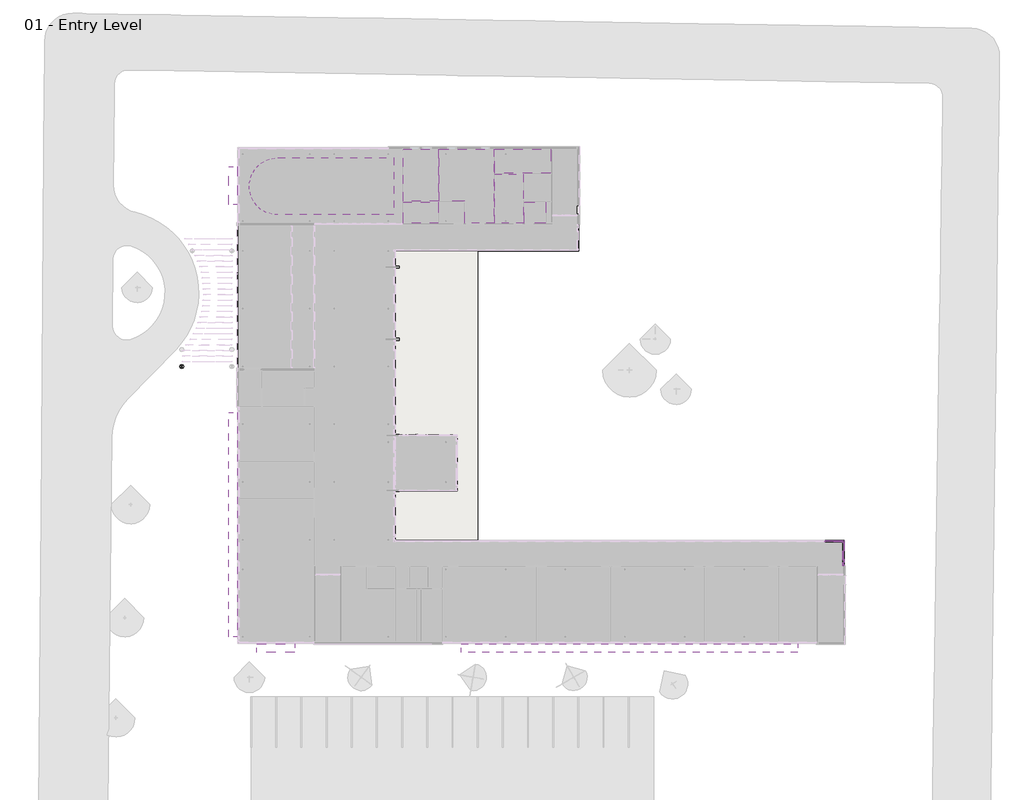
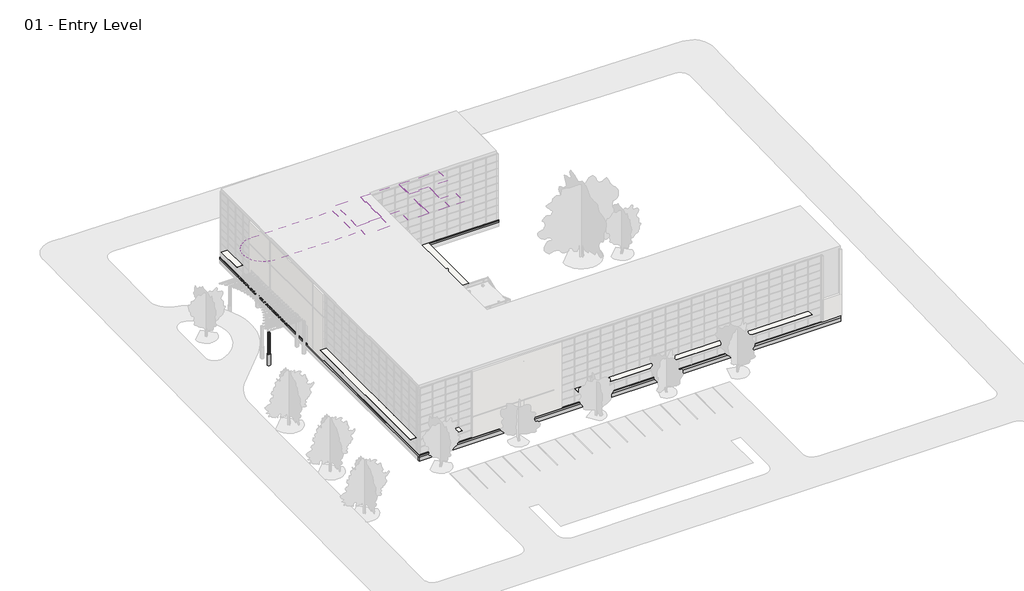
# One storey, part 32 of 35: 67 members, 23 plates, 7 coverings, 7 slabs, 2 columns, 1 beam, 1 proxy.
"""IFC4 building model written with IfcOpenShell, lengths in millimetres."""

from ifc_helpers import new_model, si_unit, point, frame, frame_2d, origin, place, context, project, spatial, polyline, circle_curve, trimmed, segment, composite_curve, outline, extrude, faceted_brep, transform, mapped, element, save
from components import column_5a4f3ead, member_6230916f, member_2b49869a, member_75074519, member_391b434c, member_81de2198, member_4eae0b13, member_9822c4e5, member_b50b2218, system_panel_glazed_d0ecad2d, system_panel_glazed_85a31dd6, system_panel_glazed_01db37db, system_panel_glazed_0a464ab8

model = new_model("IFC4")

# Units and contexts
model_context = context("Model", 3, world=origin())
ifc_project = project(units=[si_unit("LENGTHUNIT", "METRE", prefix="MILLI")], contexts=[model_context])

# Site, building, storey
site = spatial("IfcSite", under=ifc_project)
building = spatial("IfcBuilding", under=site)
storey = spatial("IfcBuildingStorey", under=building, Name="01 - Entry Level", Elevation=0.0)

# Beam
placement = place(None, origin())
element("IfcBeam", 1, ObjectType="Concrete-Rectangular Beam : 12 x 24", at=placement, inside=storey, context=model_context, shape_type="Brep", body=[
    faceted_brep([(66209.1957476, -152.475, -406.4), (66209.1957476, 152.325, -406.4), (65904.3957476, 152.325, -406.4), (378.7457476, 152.325, -406.4), (73.9457476, 152.325, -406.4), (73.9457476, -152.475, -406.4), (66209.1957476, -152.475, -1016.0), (73.9457476, -152.475, -1016.0), (66209.1957476, 152.325, -1016.0), (73.9457476, 152.325, -1016.0), (378.7457476, 152.325, -1016.0), (65904.3957476, 152.325, -1016.0)], [[[0, 1, 2, 3, 4, 5]], [[6, 0, 5, 7]], [[8, 6, 7, 9, 10, 11]], [[1, 8, 11, 10, 9, 4, 3, 2]], [[1, 0, 6, 8]], [[5, 4, 9, 7]]]),
])

# Proxy
element("IfcBuildingElementProxy", 2, Name="Thickened 24\" x 12\"", ObjectType="Thickened 24\" x 12\"", at=placement, inside=storey, context=model_context, shape_type="Brep", body=[
    faceted_brep([(73.9457476, -152.475, -101.6), (73.9457476, -152.475, -406.4), (66209.1957476, -152.475, -406.4), (66209.1957476, -152.475, -101.6), (683.5457476, 457.125, -101.6), (65599.5957476, 457.125, -101.6), (378.7457476, 152.325, -406.4), (65904.3957476, 152.325, -406.4), (66209.1957476, 11106.075, -406.4), (66209.1957476, 11106.075, -101.6), (65599.5957476, 10496.475, -101.6), (65904.3957476, 10801.275, -406.4), (17288.7957476, 11106.075, -406.4), (17288.7957476, 11106.075, -101.6), (16679.1957476, 10496.475, -101.6), (16983.9957476, 10801.275, -406.4), (17288.7957476, 16446.425, -406.4), (17288.7957476, 16446.425, -101.6), (16679.1957476, 17056.025, -101.6), (16983.9957476, 16751.225, -406.4), (24051.7865197, 16446.425, -406.4), (24051.7865197, 16446.425, -101.6), (23442.1865197, 17056.025, -101.6), (23746.9865197, 16751.225, -406.4), (24051.7865197, 22650.375, -406.4), (24051.7865197, 22650.375, -101.6), (23442.1865197, 22040.775, -101.6), (23746.9865197, 22345.575, -406.4), (17288.7957476, 22650.375, -406.4), (17288.7957476, 22650.375, -101.6), (16679.1957476, 22040.775, -101.6), (16983.9957476, 22345.575, -406.4), (17288.7957476, 42646.525, -406.4), (17288.7957476, 42646.525, -101.6), (16679.1957476, 43256.125, -101.6), (16983.9957476, 42951.325, -406.4), (37253.1957476, 42646.525, -406.4), (37253.1957476, 42646.525, -101.6), (36643.5957476, 43256.125, -101.6), (36948.3957476, 42951.325, -406.4), (37253.1957476, 53930.475, -406.4), (37253.1957476, 53930.475, -101.6), (36643.5957476, 53320.875, -101.6), (36948.3957476, 53625.675, -406.4), (73.9457476, 53930.475, -406.4), (73.9457476, 53930.475, -101.6), (683.5457476, 53320.875, -101.6), (378.7457476, 53625.675, -406.4)], [[[0, 1, 2, 3]], [[4, 0, 3, 5]], [[6, 4, 5, 7]], [[1, 6, 7, 2]], [[3, 2, 8, 9]], [[5, 3, 9, 10]], [[7, 5, 10, 11]], [[2, 7, 11, 8]], [[9, 8, 12, 13]], [[10, 9, 13, 14]], [[11, 10, 14, 15]], [[8, 11, 15, 12]], [[13, 12, 16, 17]], [[14, 13, 17, 18]], [[15, 14, 18, 19]], [[12, 15, 19, 16]], [[17, 16, 20, 21]], [[18, 17, 21, 22]], [[19, 18, 22, 23]], [[16, 19, 23, 20]], [[21, 20, 24, 25]], [[22, 21, 25, 26]], [[23, 22, 26, 27]], [[20, 23, 27, 24]], [[25, 24, 28, 29]], [[26, 25, 29, 30]], [[27, 26, 30, 31]], [[24, 27, 31, 28]], [[29, 28, 32, 33]], [[30, 29, 33, 34]], [[31, 30, 34, 35]], [[28, 31, 35, 32]], [[33, 32, 36, 37]], [[34, 33, 37, 38]], [[35, 34, 38, 39]], [[32, 35, 39, 36]], [[37, 36, 40, 41]], [[38, 37, 41, 42]], [[39, 38, 42, 43]], [[36, 39, 43, 40]], [[41, 40, 44, 45]], [[42, 41, 45, 46]], [[43, 42, 46, 47]], [[40, 43, 47, 44]], [[45, 44, 1, 0]], [[46, 45, 0, 4]], [[47, 46, 4, 6]], [[44, 47, 6, 1]]]),
])

# Columns
column_shape = column_5a4f3ead(model_context)
element("IfcColumn", 3, ObjectType="Concrete-Round-Column1 : 18\"", at=placement, inside=storey, context=model_context, shape_type="MappedRepresentation", body=[
    mapped(column_shape, transform((-6018.8792524, 30064.0, 0.0), x_axis=(1.0, 0.0, 0.0), y_axis=(0.0, 1.0, 0.0), z_axis=(0.0, 0.0, 1.0))),
])
element("IfcColumn", 4, ObjectType="W-Wide Flange-Column : W10X49", at=placement, inside=storey, context=model_context, shape_type="SweptSolid", body=[
    extrude(outline(composite_curve([segment(polyline([(-5891.8792524, 30190.7519531), (-5891.8792524, 30176.5636719), (-5997.001518, 30176.5636719)]), True, "CONTINUOUS"), segment(trimmed(circle_curve(frame_2d((-5997.001518, 30159.0019531)), 17.5617187), [point((-5997.001518, 30176.5636719))], [point((-6014.5632367, 30159.0019531))], True, "CARTESIAN"), True, "CONTINUOUS"), segment(polyline([(-6014.5632367, 30159.0019531), (-6014.5632367, 29968.9980469)]), True, "CONTINUOUS"), segment(trimmed(circle_curve(frame_2d((-5997.001518, 29968.9980469)), 17.5617188), [point((-6014.5632367, 29968.9980469))], [point((-5997.001518, 29951.4363281))], True, "CARTESIAN"), True, "CONTINUOUS"), segment(polyline([(-5997.001518, 29951.4363281), (-5891.8792524, 29951.4363281), (-5891.8792524, 29937.2480469), (-6145.8792524, 29937.2480469), (-6145.8792524, 29951.4363281), (-6040.7569867, 29951.4363281)]), True, "CONTINUOUS"), segment(trimmed(circle_curve(frame_2d((-6040.7569867, 29968.9980469)), 17.5617188), [point((-6040.7569867, 29951.4363281))], [point((-6023.195268, 29968.9980469))], True, "CARTESIAN"), True, "CONTINUOUS"), segment(polyline([(-6023.195268, 29968.9980469), (-6023.195268, 30159.0019531)]), True, "CONTINUOUS"), segment(trimmed(circle_curve(frame_2d((-6040.7569867, 30159.0019531)), 17.5617188), [point((-6023.195268, 30159.0019531))], [point((-6040.7569867, 30176.5636719))], True, "CARTESIAN"), True, "CONTINUOUS"), segment(polyline([(-6040.7569867, 30176.5636719), (-6145.8792524, 30176.5636719), (-6145.8792524, 30190.7519531), (-5891.8792524, 30190.7519531)]), True, "CONTINUOUS")], self_intersect=False)), frame((0.0, 0.0, 609.6), z_axis=(0.0, 0.0, 1.0), x_axis=(1.0, 0.0, 0.0)), (0.0, 0.0, 1.0), 3489.5619178),
])

# Coverings
element("IfcCovering", 5, ObjectType="2' x 2' ACT System", at=placement, inside=storey, context=model_context, shape_type="SweptSolid", body=[
    extrude(outline(polyline([(22079.8707476, 48104.35), (22079.8707476, 53724.1), (27985.3707476, 53724.1), (27985.3707476, 45659.6), (24823.0707476, 45659.6), (24823.0707476, 48104.35), (22079.8707476, 48104.35)])), frame((0.0, 0.0, 2438.4), z_axis=(0.0, 0.0, 1.0), x_axis=(1.0, 0.0, 0.0)), (0.0, 0.0, 1.0), 57.15),
])
element("IfcCovering", 6, ObjectType="2' x 2' ACT System", at=placement, inside=storey, context=model_context, shape_type="SweptSolid", body=[
    extrude(outline(polyline([(31198.4707476, 45659.6), (28099.6707476, 45659.6), (28099.6707476, 51025.35), (31198.4707476, 51025.35), (31198.4707476, 45659.6)])), frame((0.0, 0.0, 2438.4), z_axis=(0.0, 0.0, 1.0), x_axis=(1.0, 0.0, 0.0)), (0.0, 0.0, 1.0), 57.15),
])
element("IfcCovering", 7, ObjectType="2' x 2' ACT System", at=placement, inside=storey, context=model_context, shape_type="SweptSolid", body=[
    extrude(outline(polyline([(28099.6707476, 51139.65), (28099.6707476, 53724.1), (34194.0832476, 53724.1), (34194.0832476, 51139.65), (28099.6707476, 51139.65)])), frame((0.0, 0.0, 2438.4), z_axis=(0.0, 0.0, 1.0), x_axis=(1.0, 0.0, 0.0)), (0.0, 0.0, 1.0), 57.15),
])
element("IfcCovering", 8, ObjectType="2' x 2' ACT System", at=placement, inside=storey, context=model_context, shape_type="SweptSolid", body=[
    extrude(outline(polyline([(33636.8707476, 47990.05), (33636.8707476, 45659.6), (31312.7707476, 45659.6), (31312.7707476, 47990.05), (33636.8707476, 47990.05)])), frame((0.0, 0.0, 2438.4), z_axis=(0.0, 0.0, 1.0), x_axis=(1.0, 0.0, 0.0)), (0.0, 0.0, 1.0), 57.15),
])
element("IfcCovering", 9, ObjectType="2' x 2' ACT System", at=placement, inside=storey, context=model_context, shape_type="SweptSolid", body=[
    extrude(outline(composite_curve([segment(polyline([(4458.6207476, 52809.7), (17082.4207476, 52809.7), (17082.4207476, 46586.7), (4458.6207476, 46586.7)]), True, "CONTINUOUS"), segment(trimmed(circle_curve(frame_2d((4458.6207476, 49698.2)), 3111.5), [point((4458.6207476, 46586.7))], [point((4458.6207476, 52809.7))], False, "CARTESIAN"), True, "CONTINUOUS")], self_intersect=False)), frame((0.0, 0.0, 2438.4), z_axis=(0.0, 0.0, 1.0), x_axis=(1.0, 0.0, 0.0)), (0.0, 0.0, 1.0), 57.15),
])
element("IfcCovering", 10, ObjectType="GWB on Mtl. Stud", at=placement, inside=storey, context=model_context, shape_type="SweptSolid", body=[
    extrude(outline(polyline([(18117.4707476, 48104.35), (18117.4707476, 53724.1), (21965.5707476, 53724.1), (21965.5707476, 48104.35), (18117.4707476, 48104.35)])), frame((0.0, 0.0, 2438.4), z_axis=(0.0, 0.0, 1.0), x_axis=(1.0, 0.0, 0.0)), (0.0, 0.0, 1.0), 107.95),
])
element("IfcCovering", 11, ObjectType="GWB on Mtl. Stud", at=placement, inside=storey, context=model_context, shape_type="SweptSolid", body=[
    extrude(outline(polyline([(21965.5707476, 45659.6), (18117.4707476, 45659.6), (18117.4707476, 47990.05), (21965.5707476, 47990.05), (21965.5707476, 45659.6)])), frame((0.0, 0.0, 2438.4), z_axis=(0.0, 0.0, 1.0), x_axis=(1.0, 0.0, 0.0)), (0.0, 0.0, 1.0), 107.95),
])

# Members
member_shape = member_6230916f(model_context)
element("IfcMember", 12, ObjectType="L Corner Mullion : 5\" x 5\" Corner", at=placement, inside=storey, context=model_context, shape_type="MappedRepresentation", body=[
    mapped(member_shape, transform((66104.4207476, 11001.3, 0.0), x_axis=(0.0, 1.0, 0.0), y_axis=(1.0, 0.0, 0.0), z_axis=(0.0, 0.0, -1.0))),
])
element("IfcMember", 13, ObjectType="L Corner Mullion : 5\" x 5\" Corner", at=placement, inside=storey, context=model_context, shape_type="MappedRepresentation", body=[
    mapped(member_shape, transform((66104.4207476, 11001.3, 1219.2), x_axis=(0.0, 1.0, 0.0), y_axis=(1.0, 0.0, 0.0), z_axis=(0.0, 0.0, -1.0))),
])
element("IfcMember", 14, ObjectType="L Corner Mullion : 5\" x 5\" Corner", at=placement, inside=storey, context=model_context, shape_type="MappedRepresentation", body=[
    mapped(member_shape, transform((66104.4207476, 11001.3, 2438.4), x_axis=(0.0, 1.0, 0.0), y_axis=(1.0, 0.0, 0.0), z_axis=(0.0, 0.0, -1.0))),
])
element("IfcMember", 15, ObjectType="L Corner Mullion : 5\" x 5\" Corner", at=placement, inside=storey, context=model_context, shape_type="MappedRepresentation", body=[
    mapped(member_shape, transform((66104.4207476, 11001.3, 3657.6), x_axis=(0.0, 1.0, 0.0), y_axis=(1.0, 0.0, 0.0), z_axis=(0.0, 0.0, -1.0))),
])
element("IfcMember", 16, ObjectType="L Corner Mullion : 5\" x 5\" Corner", at=placement, inside=storey, context=model_context, shape_type="MappedRepresentation", body=[
    mapped(member_shape, transform((66104.4207476, 11001.3, 4876.8), x_axis=(0.0, 1.0, 0.0), y_axis=(1.0, 0.0, 0.0), z_axis=(0.0, 0.0, -1.0))),
])
element("IfcMember", 17, ObjectType="L Corner Mullion : 5\" x 5\" Corner", at=placement, inside=storey, context=model_context, shape_type="MappedRepresentation", body=[
    mapped(member_shape, transform((66104.4207476, 11001.3, 6096.0), x_axis=(0.0, 1.0, 0.0), y_axis=(1.0, 0.0, 0.0), z_axis=(0.0, 0.0, -1.0))),
])
element("IfcMember", 18, ObjectType="L Corner Mullion : 5\" x 5\" Corner", at=placement, inside=storey, context=model_context, shape_type="MappedRepresentation", body=[
    mapped(member_shape, transform((66104.4207476, 11001.3, 7315.2), x_axis=(0.0, 1.0, 0.0), y_axis=(1.0, 0.0, 0.0), z_axis=(0.0, 0.0, -1.0))),
])
element("IfcMember", 19, ObjectType="L Corner Mullion : 5\" x 5\" Corner", at=placement, inside=storey, context=model_context, shape_type="MappedRepresentation", body=[
    mapped(member_shape, transform((66104.4207476, 11001.3, 8534.4), x_axis=(0.0, 1.0, 0.0), y_axis=(1.0, 0.0, 0.0), z_axis=(0.0, 0.0, -1.0))),
])
element("IfcMember", 20, ObjectType="L Corner Mullion : 5\" x 5\" Corner", at=placement, inside=storey, context=model_context, shape_type="MappedRepresentation", body=[
    mapped(member_shape, transform((66104.4207476, 11001.3, 9753.6), x_axis=(0.0, 1.0, 0.0), y_axis=(1.0, 0.0, 0.0), z_axis=(0.0, 0.0, -1.0))),
])
member_2_shape = member_2b49869a(model_context)
element("IfcMember", 21, ObjectType="Rectangular Mullion : 2.5\" x 5\" rectangular", at=placement, inside=storey, context=model_context, shape_type="MappedRepresentation", body=[
    mapped(member_2_shape, transform((64072.4207476, 11001.3, 9753.6), x_axis=(-1.0, 0.0, 0.0), y_axis=(0.0, 1.0, 0.0), z_axis=(0.0, 0.0, -1.0))),
])
element("IfcMember", 22, ObjectType="Rectangular Mullion : 2.5\" x 5\" rectangular", at=placement, inside=storey, context=model_context, shape_type="MappedRepresentation", body=[
    mapped(member_2_shape, transform((66104.4207476, 8969.3, 9753.6), x_axis=(0.0, 1.0, 0.0), y_axis=(1.0, 0.0, 0.0), z_axis=(0.0, 0.0, -1.0))),
])
member_3_shape = member_75074519(model_context)
element("IfcMember", 23, ObjectType="Rectangular Mullion : 2.5\" x 5\" rectangular", at=placement, inside=storey, context=model_context, shape_type="MappedRepresentation", body=[
    mapped(member_3_shape, transform((66104.4207476, 8334.3, 10972.8), x_axis=(0.0, -1.0, 0.0), y_axis=(1.0, 0.0, 0.0), z_axis=(0.0, 0.0, 1.0))),
])
member_4_shape = member_391b434c(model_context)
element("IfcMember", 24, ObjectType="Rectangular Mullion : 2.5\" x 5\" rectangular", at=placement, inside=storey, context=model_context, shape_type="MappedRepresentation", body=[
    mapped(member_4_shape, transform((64040.6707476, 11001.3, 0.0), x_axis=(0.0, 0.0, -1.0), y_axis=(0.0, 1.0, 0.0), z_axis=(1.0, 0.0, 0.0))),
])
element("IfcMember", 25, ObjectType="Rectangular Mullion : 2.5\" x 5\" rectangular", at=placement, inside=storey, context=model_context, shape_type="MappedRepresentation", body=[
    mapped(member_2_shape, transform((64072.4207476, 11001.3, 0.0), x_axis=(-1.0, 0.0, 0.0), y_axis=(0.0, 1.0, 0.0), z_axis=(0.0, 0.0, -1.0))),
])
element("IfcMember", 26, ObjectType="Rectangular Mullion : 2.5\" x 5\" rectangular", at=placement, inside=storey, context=model_context, shape_type="MappedRepresentation", body=[
    mapped(member_2_shape, transform((66104.4207476, 8969.3, 0.0), x_axis=(0.0, 1.0, 0.0), y_axis=(1.0, 0.0, 0.0), z_axis=(0.0, 0.0, -1.0))),
])
element("IfcMember", 27, ObjectType="Rectangular Mullion : 2.5\" x 5\" rectangular", at=placement, inside=storey, context=model_context, shape_type="MappedRepresentation", body=[
    mapped(member_2_shape, transform((64072.4207476, 11001.3, 1219.2), x_axis=(-1.0, 0.0, 0.0), y_axis=(0.0, 1.0, 0.0), z_axis=(0.0, 0.0, -1.0))),
])
element("IfcMember", 28, ObjectType="Rectangular Mullion : 2.5\" x 5\" rectangular", at=placement, inside=storey, context=model_context, shape_type="MappedRepresentation", body=[
    mapped(member_2_shape, transform((64072.4207476, 11001.3, 2438.4), x_axis=(-1.0, 0.0, 0.0), y_axis=(0.0, 1.0, 0.0), z_axis=(0.0, 0.0, -1.0))),
])
element("IfcMember", 29, ObjectType="Rectangular Mullion : 2.5\" x 5\" rectangular", at=placement, inside=storey, context=model_context, shape_type="MappedRepresentation", body=[
    mapped(member_2_shape, transform((64072.4207476, 11001.3, 3657.6), x_axis=(-1.0, 0.0, 0.0), y_axis=(0.0, 1.0, 0.0), z_axis=(0.0, 0.0, -1.0))),
])
element("IfcMember", 30, ObjectType="Rectangular Mullion : 2.5\" x 5\" rectangular", at=placement, inside=storey, context=model_context, shape_type="MappedRepresentation", body=[
    mapped(member_2_shape, transform((64072.4207476, 11001.3, 4876.8), x_axis=(-1.0, 0.0, 0.0), y_axis=(0.0, 1.0, 0.0), z_axis=(0.0, 0.0, -1.0))),
])
element("IfcMember", 31, ObjectType="Rectangular Mullion : 2.5\" x 5\" rectangular", at=placement, inside=storey, context=model_context, shape_type="MappedRepresentation", body=[
    mapped(member_2_shape, transform((64072.4207476, 11001.3, 6096.0), x_axis=(-1.0, 0.0, 0.0), y_axis=(0.0, 1.0, 0.0), z_axis=(0.0, 0.0, -1.0))),
])
element("IfcMember", 32, ObjectType="Rectangular Mullion : 2.5\" x 5\" rectangular", at=placement, inside=storey, context=model_context, shape_type="MappedRepresentation", body=[
    mapped(member_2_shape, transform((64072.4207476, 11001.3, 7315.2), x_axis=(-1.0, 0.0, 0.0), y_axis=(0.0, 1.0, 0.0), z_axis=(0.0, 0.0, -1.0))),
])
element("IfcMember", 33, ObjectType="Rectangular Mullion : 2.5\" x 5\" rectangular", at=placement, inside=storey, context=model_context, shape_type="MappedRepresentation", body=[
    mapped(member_2_shape, transform((64072.4207476, 11001.3, 8534.4), x_axis=(-1.0, 0.0, 0.0), y_axis=(0.0, 1.0, 0.0), z_axis=(0.0, 0.0, -1.0))),
])
element("IfcMember", 34, ObjectType="Rectangular Mullion : 2.5\" x 5\" rectangular", at=placement, inside=storey, context=model_context, shape_type="MappedRepresentation", body=[
    mapped(member_2_shape, transform((66104.4207476, 8969.3, 1219.2), x_axis=(0.0, 1.0, 0.0), y_axis=(1.0, 0.0, 0.0), z_axis=(0.0, 0.0, -1.0))),
])
element("IfcMember", 35, ObjectType="Rectangular Mullion : 2.5\" x 5\" rectangular", at=placement, inside=storey, context=model_context, shape_type="MappedRepresentation", body=[
    mapped(member_2_shape, transform((66104.4207476, 8969.3, 2438.4), x_axis=(0.0, 1.0, 0.0), y_axis=(1.0, 0.0, 0.0), z_axis=(0.0, 0.0, -1.0))),
])
element("IfcMember", 36, ObjectType="Rectangular Mullion : 2.5\" x 5\" rectangular", at=placement, inside=storey, context=model_context, shape_type="MappedRepresentation", body=[
    mapped(member_2_shape, transform((66104.4207476, 8969.3, 3657.6), x_axis=(0.0, 1.0, 0.0), y_axis=(1.0, 0.0, 0.0), z_axis=(0.0, 0.0, -1.0))),
])
element("IfcMember", 37, ObjectType="Rectangular Mullion : 2.5\" x 5\" rectangular", at=placement, inside=storey, context=model_context, shape_type="MappedRepresentation", body=[
    mapped(member_2_shape, transform((66104.4207476, 8969.3, 4876.8), x_axis=(0.0, 1.0, 0.0), y_axis=(1.0, 0.0, 0.0), z_axis=(0.0, 0.0, -1.0))),
])
element("IfcMember", 38, ObjectType="Rectangular Mullion : 2.5\" x 5\" rectangular", at=placement, inside=storey, context=model_context, shape_type="MappedRepresentation", body=[
    mapped(member_2_shape, transform((66104.4207476, 8969.3, 6096.0), x_axis=(0.0, 1.0, 0.0), y_axis=(1.0, 0.0, 0.0), z_axis=(0.0, 0.0, -1.0))),
])
element("IfcMember", 39, ObjectType="Rectangular Mullion : 2.5\" x 5\" rectangular", at=placement, inside=storey, context=model_context, shape_type="MappedRepresentation", body=[
    mapped(member_2_shape, transform((66104.4207476, 8969.3, 7315.2), x_axis=(0.0, 1.0, 0.0), y_axis=(1.0, 0.0, 0.0), z_axis=(0.0, 0.0, -1.0))),
])
element("IfcMember", 40, ObjectType="Rectangular Mullion : 2.5\" x 5\" rectangular", at=placement, inside=storey, context=model_context, shape_type="MappedRepresentation", body=[
    mapped(member_2_shape, transform((66104.4207476, 8969.3, 8534.4), x_axis=(0.0, 1.0, 0.0), y_axis=(1.0, 0.0, 0.0), z_axis=(0.0, 0.0, -1.0))),
])
member_5_shape = member_81de2198(model_context)
element("IfcMember", 41, ObjectType="Rectangular Mullion : 2.5\" x 5\" rectangular", at=placement, inside=storey, context=model_context, shape_type="MappedRepresentation", body=[
    mapped(member_5_shape, transform((66104.4207476, 8937.55, 10972.8), x_axis=(0.0, 0.0, 1.0), y_axis=(1.0, 0.0, 0.0), z_axis=(0.0, 1.0, 0.0))),
])
element("IfcMember", 42, ObjectType="Rectangular Mullion : 2.5\" x 5\" rectangular", at=placement, inside=storey, context=model_context, shape_type="MappedRepresentation", body=[
    mapped(member_5_shape, transform((66104.4207476, 8397.8, 0.0), x_axis=(0.0, 0.0, -1.0), y_axis=(1.0, 0.0, 0.0), z_axis=(0.0, -1.0, 0.0))),
])
member_6_shape = member_4eae0b13(model_context)
element("IfcMember", 43, ObjectType="Rectangular Mullion : 2.5\" x 5\" rectangular", at=placement, inside=storey, context=model_context, shape_type="MappedRepresentation", body=[
    mapped(member_6_shape, transform((66104.4207476, 8937.55, 1219.2), x_axis=(0.0, 0.0, 1.0), y_axis=(1.0, 0.0, 0.0), z_axis=(0.0, 1.0, 0.0))),
])
element("IfcMember", 44, ObjectType="Rectangular Mullion : 2.5\" x 5\" rectangular", at=placement, inside=storey, context=model_context, shape_type="MappedRepresentation", body=[
    mapped(member_6_shape, transform((66104.4207476, 8937.55, 2438.4), x_axis=(0.0, 0.0, 1.0), y_axis=(1.0, 0.0, 0.0), z_axis=(0.0, 1.0, 0.0))),
])
element("IfcMember", 45, ObjectType="Rectangular Mullion : 2.5\" x 5\" rectangular", at=placement, inside=storey, context=model_context, shape_type="MappedRepresentation", body=[
    mapped(member_6_shape, transform((66104.4207476, 8937.55, 3657.6), x_axis=(0.0, 0.0, 1.0), y_axis=(1.0, 0.0, 0.0), z_axis=(0.0, 1.0, 0.0))),
])
element("IfcMember", 46, ObjectType="Rectangular Mullion : 2.5\" x 5\" rectangular", at=placement, inside=storey, context=model_context, shape_type="MappedRepresentation", body=[
    mapped(member_6_shape, transform((66104.4207476, 8937.55, 4876.8), x_axis=(0.0, 0.0, 1.0), y_axis=(1.0, 0.0, 0.0), z_axis=(0.0, 1.0, 0.0))),
])
element("IfcMember", 47, ObjectType="Rectangular Mullion : 2.5\" x 5\" rectangular", at=placement, inside=storey, context=model_context, shape_type="MappedRepresentation", body=[
    mapped(member_6_shape, transform((66104.4207476, 8937.55, 6096.0), x_axis=(0.0, 0.0, 1.0), y_axis=(1.0, 0.0, 0.0), z_axis=(0.0, 1.0, 0.0))),
])
element("IfcMember", 48, ObjectType="Rectangular Mullion : 2.5\" x 5\" rectangular", at=placement, inside=storey, context=model_context, shape_type="MappedRepresentation", body=[
    mapped(member_6_shape, transform((66104.4207476, 8937.55, 7315.2), x_axis=(0.0, 0.0, 1.0), y_axis=(1.0, 0.0, 0.0), z_axis=(0.0, 1.0, 0.0))),
])
element("IfcMember", 49, ObjectType="Rectangular Mullion : 2.5\" x 5\" rectangular", at=placement, inside=storey, context=model_context, shape_type="MappedRepresentation", body=[
    mapped(member_6_shape, transform((66104.4207476, 8937.55, 8534.4), x_axis=(0.0, 0.0, 1.0), y_axis=(1.0, 0.0, 0.0), z_axis=(0.0, 1.0, 0.0))),
])
element("IfcMember", 50, ObjectType="Rectangular Mullion : 2.5\" x 5\" rectangular", at=placement, inside=storey, context=model_context, shape_type="MappedRepresentation", body=[
    mapped(member_6_shape, transform((66104.4207476, 8937.55, 9753.6), x_axis=(0.0, 0.0, 1.0), y_axis=(1.0, 0.0, 0.0), z_axis=(0.0, 1.0, 0.0))),
])
element("IfcMember", 51, ObjectType="Rectangular Mullion : 2.5\" x 5\" rectangular", at=placement, inside=storey, context=model_context, shape_type="MappedRepresentation", body=[
    mapped(member_3_shape, transform((66104.4207476, 8334.3, 1219.2), x_axis=(0.0, -1.0, 0.0), y_axis=(1.0, 0.0, 0.0), z_axis=(0.0, 0.0, 1.0))),
])
element("IfcMember", 52, ObjectType="Rectangular Mullion : 2.5\" x 5\" rectangular", at=placement, inside=storey, context=model_context, shape_type="MappedRepresentation", body=[
    mapped(member_3_shape, transform((66104.4207476, 8334.3, 2438.4), x_axis=(0.0, -1.0, 0.0), y_axis=(1.0, 0.0, 0.0), z_axis=(0.0, 0.0, 1.0))),
])
element("IfcMember", 53, ObjectType="Rectangular Mullion : 2.5\" x 5\" rectangular", at=placement, inside=storey, context=model_context, shape_type="MappedRepresentation", body=[
    mapped(member_3_shape, transform((66104.4207476, 8334.3, 3657.6), x_axis=(0.0, -1.0, 0.0), y_axis=(1.0, 0.0, 0.0), z_axis=(0.0, 0.0, 1.0))),
])
element("IfcMember", 54, ObjectType="Rectangular Mullion : 2.5\" x 5\" rectangular", at=placement, inside=storey, context=model_context, shape_type="MappedRepresentation", body=[
    mapped(member_3_shape, transform((66104.4207476, 8334.3, 4876.8), x_axis=(0.0, -1.0, 0.0), y_axis=(1.0, 0.0, 0.0), z_axis=(0.0, 0.0, 1.0))),
])
element("IfcMember", 55, ObjectType="Rectangular Mullion : 2.5\" x 5\" rectangular", at=placement, inside=storey, context=model_context, shape_type="MappedRepresentation", body=[
    mapped(member_3_shape, transform((66104.4207476, 8334.3, 6096.0), x_axis=(0.0, -1.0, 0.0), y_axis=(1.0, 0.0, 0.0), z_axis=(0.0, 0.0, 1.0))),
])
element("IfcMember", 56, ObjectType="Rectangular Mullion : 2.5\" x 5\" rectangular", at=placement, inside=storey, context=model_context, shape_type="MappedRepresentation", body=[
    mapped(member_3_shape, transform((66104.4207476, 8334.3, 7315.2), x_axis=(0.0, -1.0, 0.0), y_axis=(1.0, 0.0, 0.0), z_axis=(0.0, 0.0, 1.0))),
])
element("IfcMember", 57, ObjectType="Rectangular Mullion : 2.5\" x 5\" rectangular", at=placement, inside=storey, context=model_context, shape_type="MappedRepresentation", body=[
    mapped(member_3_shape, transform((66104.4207476, 8334.3, 8534.4), x_axis=(0.0, -1.0, 0.0), y_axis=(1.0, 0.0, 0.0), z_axis=(0.0, 0.0, 1.0))),
])
element("IfcMember", 58, ObjectType="Rectangular Mullion : 2.5\" x 5\" rectangular", at=placement, inside=storey, context=model_context, shape_type="MappedRepresentation", body=[
    mapped(member_3_shape, transform((66104.4207476, 8334.3, 9753.6), x_axis=(0.0, -1.0, 0.0), y_axis=(1.0, 0.0, 0.0), z_axis=(0.0, 0.0, 1.0))),
])
member_7_shape = member_9822c4e5(model_context)
element("IfcMember", 59, ObjectType="Rectangular Mullion : 2.5\" x 5\" rectangular", at=placement, inside=storey, context=model_context, shape_type="MappedRepresentation", body=[
    mapped(member_7_shape, transform((66104.4207476, 10874.3, 10972.8), x_axis=(0.0, 0.0, 1.0), y_axis=(1.0, 0.0, 0.0), z_axis=(0.0, 1.0, 0.0))),
])
element("IfcMember", 60, ObjectType="Rectangular Mullion : 2.5\" x 5\" rectangular", at=placement, inside=storey, context=model_context, shape_type="MappedRepresentation", body=[
    mapped(member_7_shape, transform((64104.1707476, 11001.3, 10972.8), x_axis=(0.0, 0.0, 1.0), y_axis=(0.0, 1.0, 0.0), z_axis=(-1.0, 0.0, 0.0))),
])
element("IfcMember", 61, ObjectType="Rectangular Mullion : 2.5\" x 5\" rectangular", at=placement, inside=storey, context=model_context, shape_type="MappedRepresentation", body=[
    mapped(member_7_shape, transform((65977.4207476, 11001.3, 0.0), x_axis=(0.0, 0.0, -1.0), y_axis=(0.0, 1.0, 0.0), z_axis=(1.0, 0.0, 0.0))),
])
element("IfcMember", 62, ObjectType="Rectangular Mullion : 2.5\" x 5\" rectangular", at=placement, inside=storey, context=model_context, shape_type="MappedRepresentation", body=[
    mapped(member_7_shape, transform((66104.4207476, 9001.05, 0.0), x_axis=(0.0, 0.0, -1.0), y_axis=(1.0, 0.0, 0.0), z_axis=(0.0, -1.0, 0.0))),
])
member_8_shape = member_b50b2218(model_context)
element("IfcMember", 63, ObjectType="Rectangular Mullion : 2.5\" x 5\" rectangular", at=placement, inside=storey, context=model_context, shape_type="MappedRepresentation", body=[
    mapped(member_8_shape, transform((66104.4207476, 10874.3, 1219.2), x_axis=(0.0, 0.0, 1.0), y_axis=(1.0, 0.0, 0.0), z_axis=(0.0, 1.0, 0.0))),
])
element("IfcMember", 64, ObjectType="Rectangular Mullion : 2.5\" x 5\" rectangular", at=placement, inside=storey, context=model_context, shape_type="MappedRepresentation", body=[
    mapped(member_8_shape, transform((66104.4207476, 10874.3, 2438.4), x_axis=(0.0, 0.0, 1.0), y_axis=(1.0, 0.0, 0.0), z_axis=(0.0, 1.0, 0.0))),
])
element("IfcMember", 65, ObjectType="Rectangular Mullion : 2.5\" x 5\" rectangular", at=placement, inside=storey, context=model_context, shape_type="MappedRepresentation", body=[
    mapped(member_8_shape, transform((66104.4207476, 10874.3, 3657.6), x_axis=(0.0, 0.0, 1.0), y_axis=(1.0, 0.0, 0.0), z_axis=(0.0, 1.0, 0.0))),
])
element("IfcMember", 66, ObjectType="Rectangular Mullion : 2.5\" x 5\" rectangular", at=placement, inside=storey, context=model_context, shape_type="MappedRepresentation", body=[
    mapped(member_8_shape, transform((66104.4207476, 10874.3, 4876.8), x_axis=(0.0, 0.0, 1.0), y_axis=(1.0, 0.0, 0.0), z_axis=(0.0, 1.0, 0.0))),
])
element("IfcMember", 67, ObjectType="Rectangular Mullion : 2.5\" x 5\" rectangular", at=placement, inside=storey, context=model_context, shape_type="MappedRepresentation", body=[
    mapped(member_8_shape, transform((66104.4207476, 10874.3, 6096.0), x_axis=(0.0, 0.0, 1.0), y_axis=(1.0, 0.0, 0.0), z_axis=(0.0, 1.0, 0.0))),
])
element("IfcMember", 68, ObjectType="Rectangular Mullion : 2.5\" x 5\" rectangular", at=placement, inside=storey, context=model_context, shape_type="MappedRepresentation", body=[
    mapped(member_8_shape, transform((66104.4207476, 10874.3, 7315.2), x_axis=(0.0, 0.0, 1.0), y_axis=(1.0, 0.0, 0.0), z_axis=(0.0, 1.0, 0.0))),
])
element("IfcMember", 69, ObjectType="Rectangular Mullion : 2.5\" x 5\" rectangular", at=placement, inside=storey, context=model_context, shape_type="MappedRepresentation", body=[
    mapped(member_8_shape, transform((66104.4207476, 10874.3, 8534.4), x_axis=(0.0, 0.0, 1.0), y_axis=(1.0, 0.0, 0.0), z_axis=(0.0, 1.0, 0.0))),
])
element("IfcMember", 70, ObjectType="Rectangular Mullion : 2.5\" x 5\" rectangular", at=placement, inside=storey, context=model_context, shape_type="MappedRepresentation", body=[
    mapped(member_8_shape, transform((66104.4207476, 10874.3, 9753.6), x_axis=(0.0, 0.0, 1.0), y_axis=(1.0, 0.0, 0.0), z_axis=(0.0, 1.0, 0.0))),
])
element("IfcMember", 71, ObjectType="Rectangular Mullion : 2.5\" x 5\" rectangular", at=placement, inside=storey, context=model_context, shape_type="MappedRepresentation", body=[
    mapped(member_8_shape, transform((64104.1707476, 11001.3, 1219.2), x_axis=(0.0, 0.0, 1.0), y_axis=(0.0, 1.0, 0.0), z_axis=(-1.0, 0.0, 0.0))),
])
element("IfcMember", 72, ObjectType="Rectangular Mullion : 2.5\" x 5\" rectangular", at=placement, inside=storey, context=model_context, shape_type="MappedRepresentation", body=[
    mapped(member_8_shape, transform((64104.1707476, 11001.3, 2438.4), x_axis=(0.0, 0.0, 1.0), y_axis=(0.0, 1.0, 0.0), z_axis=(-1.0, 0.0, 0.0))),
])
element("IfcMember", 73, ObjectType="Rectangular Mullion : 2.5\" x 5\" rectangular", at=placement, inside=storey, context=model_context, shape_type="MappedRepresentation", body=[
    mapped(member_8_shape, transform((64104.1707476, 11001.3, 3657.6), x_axis=(0.0, 0.0, 1.0), y_axis=(0.0, 1.0, 0.0), z_axis=(-1.0, 0.0, 0.0))),
])
element("IfcMember", 74, ObjectType="Rectangular Mullion : 2.5\" x 5\" rectangular", at=placement, inside=storey, context=model_context, shape_type="MappedRepresentation", body=[
    mapped(member_8_shape, transform((64104.1707476, 11001.3, 4876.8), x_axis=(0.0, 0.0, 1.0), y_axis=(0.0, 1.0, 0.0), z_axis=(-1.0, 0.0, 0.0))),
])
element("IfcMember", 75, ObjectType="Rectangular Mullion : 2.5\" x 5\" rectangular", at=placement, inside=storey, context=model_context, shape_type="MappedRepresentation", body=[
    mapped(member_8_shape, transform((64104.1707476, 11001.3, 6096.0), x_axis=(0.0, 0.0, 1.0), y_axis=(0.0, 1.0, 0.0), z_axis=(-1.0, 0.0, 0.0))),
])
element("IfcMember", 76, ObjectType="Rectangular Mullion : 2.5\" x 5\" rectangular", at=placement, inside=storey, context=model_context, shape_type="MappedRepresentation", body=[
    mapped(member_8_shape, transform((64104.1707476, 11001.3, 7315.2), x_axis=(0.0, 0.0, 1.0), y_axis=(0.0, 1.0, 0.0), z_axis=(-1.0, 0.0, 0.0))),
])
element("IfcMember", 77, ObjectType="Rectangular Mullion : 2.5\" x 5\" rectangular", at=placement, inside=storey, context=model_context, shape_type="MappedRepresentation", body=[
    mapped(member_8_shape, transform((64104.1707476, 11001.3, 8534.4), x_axis=(0.0, 0.0, 1.0), y_axis=(0.0, 1.0, 0.0), z_axis=(-1.0, 0.0, 0.0))),
])
element("IfcMember", 78, ObjectType="Rectangular Mullion : 2.5\" x 5\" rectangular", at=placement, inside=storey, context=model_context, shape_type="MappedRepresentation", body=[
    mapped(member_8_shape, transform((64104.1707476, 11001.3, 9753.6), x_axis=(0.0, 0.0, 1.0), y_axis=(0.0, 1.0, 0.0), z_axis=(-1.0, 0.0, 0.0))),
])

# Plates
system_panel_glazed_shape = system_panel_glazed_d0ecad2d(model_context)
element("IfcPlate", 79, ObjectType="System Panel : Glazed", at=placement, inside=storey, context=model_context, shape_type="MappedRepresentation", body=[
    mapped(system_panel_glazed_shape, transform((66104.4207476, 8667.675, 9785.35), x_axis=(0.0, 1.0, 0.0), y_axis=(-1.0, 0.0, 0.0), z_axis=(0.0, 0.0, 1.0))),
])
system_panel_glazed_2_shape = system_panel_glazed_85a31dd6(model_context)
element("IfcPlate", 80, ObjectType="System Panel : Glazed", at=placement, inside=storey, context=model_context, shape_type="MappedRepresentation", body=[
    mapped(system_panel_glazed_2_shape, transform((66104.4207476, 8667.675, 4908.55), x_axis=(0.0, 1.0, 0.0), y_axis=(-1.0, 0.0, 0.0), z_axis=(0.0, 0.0, 1.0))),
])
element("IfcPlate", 81, ObjectType="System Panel : Glazed", at=placement, inside=storey, context=model_context, shape_type="MappedRepresentation", body=[
    mapped(system_panel_glazed_2_shape, transform((66104.4207476, 8667.675, 6127.75), x_axis=(0.0, 1.0, 0.0), y_axis=(-1.0, 0.0, 0.0), z_axis=(0.0, 0.0, 1.0))),
])
element("IfcPlate", 82, ObjectType="System Panel : Glazed", at=placement, inside=storey, context=model_context, shape_type="MappedRepresentation", body=[
    mapped(system_panel_glazed_2_shape, transform((66104.4207476, 8667.675, 7346.95), x_axis=(0.0, 1.0, 0.0), y_axis=(-1.0, 0.0, 0.0), z_axis=(0.0, 0.0, 1.0))),
])
element("IfcPlate", 83, ObjectType="System Panel : Glazed", at=placement, inside=storey, context=model_context, shape_type="MappedRepresentation", body=[
    mapped(system_panel_glazed_2_shape, transform((66104.4207476, 8667.675, 8566.15), x_axis=(0.0, 1.0, 0.0), y_axis=(-1.0, 0.0, 0.0), z_axis=(0.0, 0.0, 1.0))),
])
system_panel_glazed_3_shape = system_panel_glazed_01db37db(model_context)
element("IfcPlate", 84, ObjectType="System Panel : Glazed", at=placement, inside=storey, context=model_context, shape_type="MappedRepresentation", body=[
    mapped(system_panel_glazed_3_shape, transform((65040.7957476, 11001.3, 63.5), x_axis=(-1.0, 0.0, 0.0), y_axis=(0.0, -1.0, 0.0), z_axis=(0.0, 0.0, 1.0))),
])
element("IfcPlate", 85, ObjectType="System Panel : Glazed", at=placement, inside=storey, context=model_context, shape_type="MappedRepresentation", body=[
    mapped(system_panel_glazed_3_shape, transform((65040.7957476, 11001.3, 9785.35), x_axis=(-1.0, 0.0, 0.0), y_axis=(0.0, -1.0, 0.0), z_axis=(0.0, 0.0, 1.0))),
])
element("IfcPlate", 86, ObjectType="System Panel : Glazed", at=placement, inside=storey, context=model_context, shape_type="MappedRepresentation", body=[
    mapped(system_panel_glazed_3_shape, transform((66104.4207476, 9937.675, 63.5), x_axis=(0.0, 1.0, 0.0), y_axis=(-1.0, 0.0, 0.0), z_axis=(0.0, 0.0, 1.0))),
])
element("IfcPlate", 87, ObjectType="System Panel : Glazed", at=placement, inside=storey, context=model_context, shape_type="MappedRepresentation", body=[
    mapped(system_panel_glazed_3_shape, transform((66104.4207476, 9937.675, 9785.35), x_axis=(0.0, 1.0, 0.0), y_axis=(-1.0, 0.0, 0.0), z_axis=(0.0, 0.0, 1.0))),
])
system_panel_glazed_4_shape = system_panel_glazed_0a464ab8(model_context)
element("IfcPlate", 88, ObjectType="System Panel : Glazed", at=placement, inside=storey, context=model_context, shape_type="MappedRepresentation", body=[
    mapped(system_panel_glazed_4_shape, transform((65040.7957476, 11001.3, 1250.95), x_axis=(-1.0, 0.0, 0.0), y_axis=(0.0, -1.0, 0.0), z_axis=(0.0, 0.0, 1.0))),
])
element("IfcPlate", 89, ObjectType="System Panel : Glazed", at=placement, inside=storey, context=model_context, shape_type="MappedRepresentation", body=[
    mapped(system_panel_glazed_4_shape, transform((65040.7957476, 11001.3, 2470.15), x_axis=(-1.0, 0.0, 0.0), y_axis=(0.0, -1.0, 0.0), z_axis=(0.0, 0.0, 1.0))),
])
element("IfcPlate", 90, ObjectType="System Panel : Glazed", at=placement, inside=storey, context=model_context, shape_type="MappedRepresentation", body=[
    mapped(system_panel_glazed_4_shape, transform((65040.7957476, 11001.3, 3689.35), x_axis=(-1.0, 0.0, 0.0), y_axis=(0.0, -1.0, 0.0), z_axis=(0.0, 0.0, 1.0))),
])
element("IfcPlate", 91, ObjectType="System Panel : Glazed", at=placement, inside=storey, context=model_context, shape_type="MappedRepresentation", body=[
    mapped(system_panel_glazed_4_shape, transform((65040.7957476, 11001.3, 4908.55), x_axis=(-1.0, 0.0, 0.0), y_axis=(0.0, -1.0, 0.0), z_axis=(0.0, 0.0, 1.0))),
])
element("IfcPlate", 92, ObjectType="System Panel : Glazed", at=placement, inside=storey, context=model_context, shape_type="MappedRepresentation", body=[
    mapped(system_panel_glazed_4_shape, transform((65040.7957476, 11001.3, 6127.75), x_axis=(-1.0, 0.0, 0.0), y_axis=(0.0, -1.0, 0.0), z_axis=(0.0, 0.0, 1.0))),
])
element("IfcPlate", 93, ObjectType="System Panel : Glazed", at=placement, inside=storey, context=model_context, shape_type="MappedRepresentation", body=[
    mapped(system_panel_glazed_4_shape, transform((65040.7957476, 11001.3, 7346.95), x_axis=(-1.0, 0.0, 0.0), y_axis=(0.0, -1.0, 0.0), z_axis=(0.0, 0.0, 1.0))),
])
element("IfcPlate", 94, ObjectType="System Panel : Glazed", at=placement, inside=storey, context=model_context, shape_type="MappedRepresentation", body=[
    mapped(system_panel_glazed_4_shape, transform((65040.7957476, 11001.3, 8566.15), x_axis=(-1.0, 0.0, 0.0), y_axis=(0.0, -1.0, 0.0), z_axis=(0.0, 0.0, 1.0))),
])
element("IfcPlate", 95, ObjectType="System Panel : Glazed", at=placement, inside=storey, context=model_context, shape_type="MappedRepresentation", body=[
    mapped(system_panel_glazed_4_shape, transform((66104.4207476, 9937.675, 1250.95), x_axis=(0.0, 1.0, 0.0), y_axis=(-1.0, 0.0, 0.0), z_axis=(0.0, 0.0, 1.0))),
])
element("IfcPlate", 96, ObjectType="System Panel : Glazed", at=placement, inside=storey, context=model_context, shape_type="MappedRepresentation", body=[
    mapped(system_panel_glazed_4_shape, transform((66104.4207476, 9937.675, 2470.15), x_axis=(0.0, 1.0, 0.0), y_axis=(-1.0, 0.0, 0.0), z_axis=(0.0, 0.0, 1.0))),
])
element("IfcPlate", 97, ObjectType="System Panel : Glazed", at=placement, inside=storey, context=model_context, shape_type="MappedRepresentation", body=[
    mapped(system_panel_glazed_4_shape, transform((66104.4207476, 9937.675, 3689.35), x_axis=(0.0, 1.0, 0.0), y_axis=(-1.0, 0.0, 0.0), z_axis=(0.0, 0.0, 1.0))),
])
element("IfcPlate", 98, ObjectType="System Panel : Glazed", at=placement, inside=storey, context=model_context, shape_type="MappedRepresentation", body=[
    mapped(system_panel_glazed_4_shape, transform((66104.4207476, 9937.675, 4908.55), x_axis=(0.0, 1.0, 0.0), y_axis=(-1.0, 0.0, 0.0), z_axis=(0.0, 0.0, 1.0))),
])
element("IfcPlate", 99, ObjectType="System Panel : Glazed", at=placement, inside=storey, context=model_context, shape_type="MappedRepresentation", body=[
    mapped(system_panel_glazed_4_shape, transform((66104.4207476, 9937.675, 6127.75), x_axis=(0.0, 1.0, 0.0), y_axis=(-1.0, 0.0, 0.0), z_axis=(0.0, 0.0, 1.0))),
])
element("IfcPlate", 100, ObjectType="System Panel : Glazed", at=placement, inside=storey, context=model_context, shape_type="MappedRepresentation", body=[
    mapped(system_panel_glazed_4_shape, transform((66104.4207476, 9937.675, 7346.95), x_axis=(0.0, 1.0, 0.0), y_axis=(-1.0, 0.0, 0.0), z_axis=(0.0, 0.0, 1.0))),
])
element("IfcPlate", 101, ObjectType="System Panel : Glazed", at=placement, inside=storey, context=model_context, shape_type="MappedRepresentation", body=[
    mapped(system_panel_glazed_4_shape, transform((66104.4207476, 9937.675, 8566.15), x_axis=(0.0, 1.0, 0.0), y_axis=(-1.0, 0.0, 0.0), z_axis=(0.0, 0.0, 1.0))),
])

# Slabs
element("IfcSlab", 102, ObjectType="Concrete Slab - 4\"", at=placement, inside=storey, context=model_context, shape_type="SweptSolid", body=[
    extrude(outline(polyline([(73.9457476, -152.475), (73.9457476, 53930.475), (37253.1957476, 53930.475), (37253.1957476, 42646.525), (17288.7957476, 42646.525), (17288.7957476, 22650.375), (24051.7865197, 22650.375), (24051.7865197, 16446.425), (17288.7957476, 16446.425), (17288.7957476, 11106.075), (66209.1957476, 11106.075), (66209.1957476, -152.475), (73.9457476, -152.475)])), frame((0.0, 0.0, -101.6), z_axis=(0.0, 0.0, 1.0), x_axis=(1.0, 0.0, 0.0)), (0.0, 0.0, 1.0), 101.6),
])
element("IfcSlab", 103, ObjectType="Metal Sunscreen", at=placement, inside=storey, context=model_context, shape_type="SweptSolid", body=[
    extrude(outline(polyline([(6325.5207476, -1127.2), (2159.9207476, -1127.2), (2159.9207476, -162.0), (6325.5207476, -162.0), (6325.5207476, -1127.2)])), frame((0.0, 0.0, 2425.7), z_axis=(0.0, 0.0, 1.0), x_axis=(1.0, 0.0, 0.0)), (0.0, 0.0, 1.0), 12.7),
])
element("IfcSlab", 104, ObjectType="Metal Sunscreen", at=placement, inside=storey, context=model_context, shape_type="SweptSolid", body=[
    extrude(outline(polyline([(61126.0207476, -1127.2), (24448.4207476, -1127.2), (24448.4207476, -162.0), (61126.0207476, -162.0), (61126.0207476, -1127.2)])), frame((0.0, 0.0, 2425.7), z_axis=(0.0, 0.0, 1.0), x_axis=(1.0, 0.0, 0.0)), (0.0, 0.0, 1.0), 12.7),
])
element("IfcSlab", 105, ObjectType="Metal Sunscreen", at=placement, inside=storey, context=model_context, shape_type="SweptSolid", body=[
    extrude(outline(polyline([(64.4207476, 549.2), (-900.7792524, 549.2), (-900.7792524, 25034.8), (64.4207476, 25034.8), (64.4207476, 549.2)])), frame((0.0, 0.0, 2425.7), z_axis=(0.0, 0.0, 1.0), x_axis=(1.0, 0.0, 0.0)), (0.0, 0.0, 1.0), 12.7),
])
element("IfcSlab", 106, ObjectType="Metal Sunscreen", at=placement, inside=storey, context=model_context, shape_type="SweptSolid", body=[
    extrude(outline(polyline([(64.4207476, 47697.95), (-900.7792524, 47697.95), (-900.7792524, 51863.55), (64.4207476, 51863.55), (64.4207476, 47697.95)])), frame((0.0, 0.0, 2425.7), z_axis=(0.0, 0.0, 1.0), x_axis=(1.0, 0.0, 0.0)), (0.0, 0.0, 1.0), 12.7),
])
element("IfcSlab", 107, ObjectType="Pad 1", at=placement, inside=storey, context=model_context, shape_type="SweptSolid", body=[
    extrude(outline(polyline([(66209.1957476, -152.475), (73.9457476, -152.475), (73.9457476, 53930.475), (37253.1957476, 53930.475), (37253.1957476, 42646.525), (17288.7957476, 42646.525), (17288.7957476, 22650.375), (24051.7865197, 22650.375), (24051.7865197, 16446.425), (17288.7957476, 16446.425), (17288.7957476, 11106.075), (66209.1957476, 11106.075), (66209.1957476, -152.475)])), frame((0.0, 0.0, -304.8), z_axis=(0.0, 0.0, 1.0), x_axis=(1.0, 0.0, 0.0)), (0.0, 0.0, 1.0), 304.8),
])
element("IfcSlab", 108, ObjectType="Wood Deck on Concrete", at=placement, inside=storey, context=model_context, shape_type="SweptSolid", body=[
    extrude(outline(polyline([(26258.1644357, 42706.85), (26258.1644357, 11045.75), (17228.4707476, 11045.75), (17228.4707476, 16506.75), (23991.2207476, 16506.75), (23991.2207476, 22590.05), (17228.4707476, 22590.05), (17228.4707476, 32908.8), (17688.9115197, 32908.8), (17688.9115197, 33137.4), (17228.4707476, 33137.4), (17228.4707476, 40782.8), (17688.9115197, 40782.8), (17688.9115197, 41011.4), (17228.4707476, 41011.4), (17228.4707476, 42706.85), (26258.1644357, 42706.85)])), frame((0.0, 0.0, -139.7), z_axis=(0.0, 0.0, 1.0), x_axis=(1.0, 0.0, 0.0)), (0.0, 0.0, 1.0), 139.7),
])

save(model, "model.ifc")
